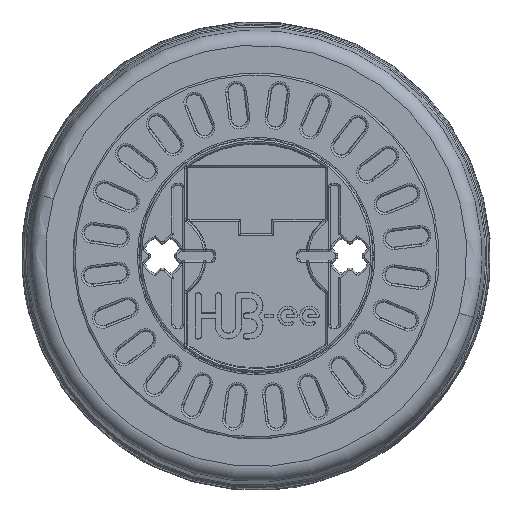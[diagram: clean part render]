
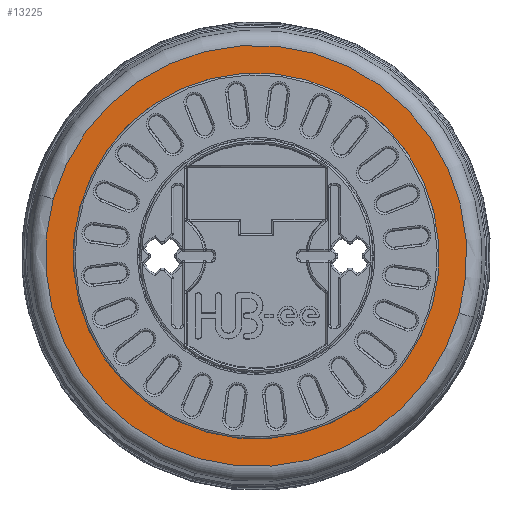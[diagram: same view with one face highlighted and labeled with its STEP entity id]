
A CAD part, top view. The second image highlights one B-rep face of the part: STEP entity #13225.
In plain terms, the highlighted planar face has unit normal (0, 0, 1).
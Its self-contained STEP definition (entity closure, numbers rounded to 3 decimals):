
#11086 = VERTEX_POINT ( 'NONE', #30322 ) ;
#11087 = VERTEX_POINT ( 'NONE', #30323 ) ;
#11100 = VERTEX_POINT ( 'NONE', #30336 ) ;
#11101 = VERTEX_POINT ( 'NONE', #30337 ) ;
#11431 = EDGE_LOOP ( 'NONE', ( #13675, #13677 ) ) ;
#11432 = EDGE_LOOP ( 'NONE', ( #13672, #13678 ) ) ;
#13073 = EDGE_CURVE ( 'NONE', #11086, #11087, #31960, .T. ) ;
#13087 = EDGE_CURVE ( 'NONE', #11100, #11101, #31984, .T. ) ;
#13225 = ADVANCED_FACE ( 'NONE', ( #29073, #29074 ), #33151, .F. ) ;
#13282 = EDGE_CURVE ( 'NONE', #11087, #11086, #32297, .T. ) ;
#13283 = EDGE_CURVE ( 'NONE', #11101, #11100, #32299, .T. ) ;
#13672 = ORIENTED_EDGE ( 'NONE', *, *, #13087, .F. ) ;
#13675 = ORIENTED_EDGE ( 'NONE', *, *, #13282, .T. ) ;
#13677 = ORIENTED_EDGE ( 'NONE', *, *, #13073, .T. ) ;
#13678 = ORIENTED_EDGE ( 'NONE', *, *, #13283, .F. ) ;
#29073 = FACE_OUTER_BOUND ( 'NONE', #11431, .T. ) ;
#29074 = FACE_BOUND ( 'NONE', #11432, .T. ) ;
#30322 = CARTESIAN_POINT ( 'NONE',  ( 26.949, 0., 9.6 ) ) ;
#30323 = CARTESIAN_POINT ( 'NONE',  ( -26.949, 0., 9.6 ) ) ;
#30336 = CARTESIAN_POINT ( 'NONE',  ( -23.413, 0., 9.6 ) ) ;
#30337 = CARTESIAN_POINT ( 'NONE',  ( 23.413, 0., 9.6 ) ) ;
#31960 = CIRCLE ( 'NONE', #31961, 26.949 ) ;
#31961 = AXIS2_PLACEMENT_3D ( 'NONE', #32627, #32628, #32629 ) ;
#31984 = CIRCLE ( 'NONE', #31986, 23.413 ) ;
#31986 = AXIS2_PLACEMENT_3D ( 'NONE', #32668, #32669, #32670 ) ;
#32190 = AXIS2_PLACEMENT_3D ( 'NONE', #33152, #33153, #33154 ) ;
#32297 = CIRCLE ( 'NONE', #32304, 26.949 ) ;
#32299 = CIRCLE ( 'NONE', #32306, 23.413 ) ;
#32304 = AXIS2_PLACEMENT_3D ( 'NONE', #33323, #33324, #33325 ) ;
#32306 = AXIS2_PLACEMENT_3D ( 'NONE', #33326, #33327, #33328 ) ;
#32627 = CARTESIAN_POINT ( 'NONE',  ( 0., 0., 9.6 ) ) ;
#32628 = DIRECTION ( 'NONE',  ( 0., 0., 1. ) ) ;
#32629 = DIRECTION ( 'NONE',  ( -1., 0., 0. ) ) ;
#32668 = CARTESIAN_POINT ( 'NONE',  ( 0., 0., 9.6 ) ) ;
#32669 = DIRECTION ( 'NONE',  ( 0., 0., 1. ) ) ;
#32670 = DIRECTION ( 'NONE',  ( 1., 0., 0. ) ) ;
#33151 = PLANE ( 'NONE',  #32190 ) ;
#33152 = CARTESIAN_POINT ( 'NONE',  ( 0., 23.413, 9.6 ) ) ;
#33153 = DIRECTION ( 'NONE',  ( 0., 0., -1. ) ) ;
#33154 = DIRECTION ( 'NONE',  ( -1., 0., 0. ) ) ;
#33323 = CARTESIAN_POINT ( 'NONE',  ( 0., 0., 9.6 ) ) ;
#33324 = DIRECTION ( 'NONE',  ( 0., 0., 1. ) ) ;
#33325 = DIRECTION ( 'NONE',  ( -1., 0., 0. ) ) ;
#33326 = CARTESIAN_POINT ( 'NONE',  ( 0., 0., 9.6 ) ) ;
#33327 = DIRECTION ( 'NONE',  ( 0., 0., 1. ) ) ;
#33328 = DIRECTION ( 'NONE',  ( 1., 0., 0. ) ) ;
